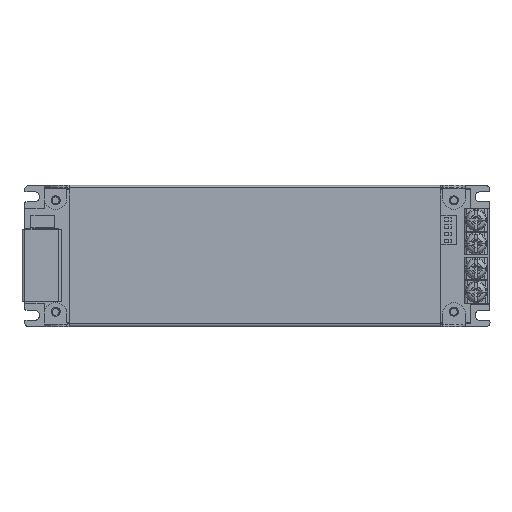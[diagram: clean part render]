
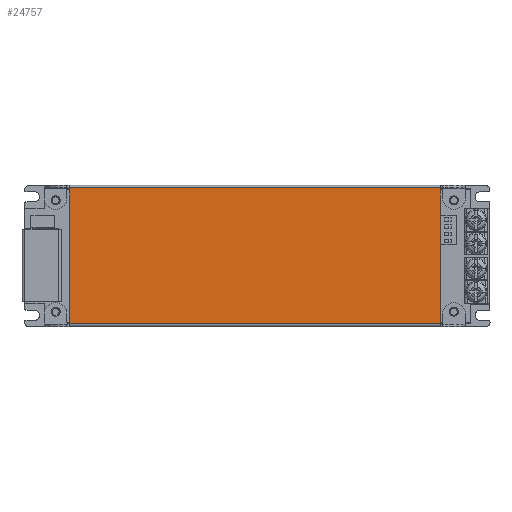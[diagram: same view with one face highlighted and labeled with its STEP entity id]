
A CAD part, top view. The second image highlights one B-rep face of the part: STEP entity #24757.
In plain terms, the highlighted planar face has unit normal (0, 0, 1).
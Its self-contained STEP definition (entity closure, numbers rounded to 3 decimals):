
#10369=DIRECTION('',(-1.,0.,0.));
#10370=VECTOR('',#10369,131.6);
#10371=CARTESIAN_POINT('',(341.626,164.468,19.9));
#10372=LINE('',#10371,#10370);
#10432=DIRECTION('',(0.,1.,0.));
#10433=VECTOR('',#10432,48.2);
#10434=CARTESIAN_POINT('',(210.026,164.468,19.9));
#10435=LINE('',#10434,#10433);
#10436=DIRECTION('',(0.,1.,0.));
#10437=VECTOR('',#10436,48.2);
#10438=CARTESIAN_POINT('',(341.626,164.468,19.9));
#10439=LINE('',#10438,#10437);
#10454=DIRECTION('',(1.,0.,0.));
#10455=VECTOR('',#10454,131.6);
#10456=CARTESIAN_POINT('',(210.026,212.668,19.9));
#10457=LINE('',#10456,#10455);
#18657=CARTESIAN_POINT('',(210.026,164.468,19.9));
#18658=CARTESIAN_POINT('',(210.026,212.668,19.9));
#18659=VERTEX_POINT('',#18657);
#18660=VERTEX_POINT('',#18658);
#18661=CARTESIAN_POINT('',(341.626,164.468,19.9));
#18662=CARTESIAN_POINT('',(341.626,212.668,19.9));
#18663=VERTEX_POINT('',#18661);
#18664=VERTEX_POINT('',#18662);
#24744=CARTESIAN_POINT('',(276.726,188.568,19.9));
#24745=DIRECTION('',(0.,0.,1.));
#24746=DIRECTION('',(1.,0.,0.));
#24747=AXIS2_PLACEMENT_3D('',#24744,#24745,#24746);
#24748=PLANE('',#24747);
#24749=ORIENTED_EDGE('',*,*,#24728,.T.);
#24751=ORIENTED_EDGE('',*,*,#24750,.T.);
#24753=ORIENTED_EDGE('',*,*,#24752,.F.);
#24754=ORIENTED_EDGE('',*,*,#24566,.T.);
#24755=EDGE_LOOP('',(#24749,#24751,#24753,#24754));
#24756=FACE_OUTER_BOUND('',#24755,.F.);
#24566=EDGE_CURVE('',#18663,#18659,#10372,.T.);
#24728=EDGE_CURVE('',#18659,#18660,#10435,.T.);
#24750=EDGE_CURVE('',#18660,#18664,#10457,.T.);
#24752=EDGE_CURVE('',#18663,#18664,#10439,.T.);
#24757=ADVANCED_FACE('',(#24756),#24748,.T.);
